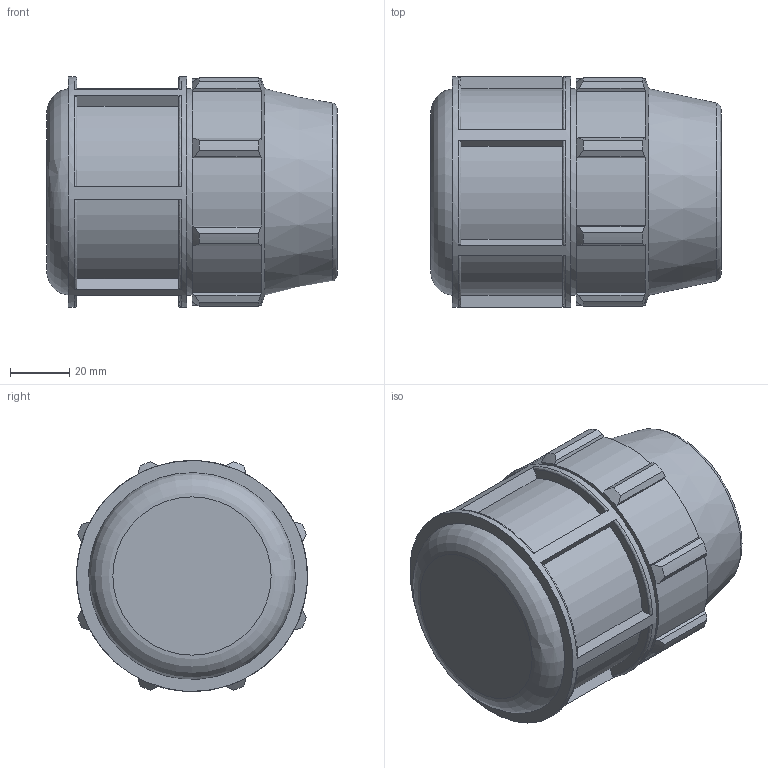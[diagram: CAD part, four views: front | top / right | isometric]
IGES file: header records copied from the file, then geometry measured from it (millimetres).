
Global section: file name: 0712M0130.ipt; native system: Autodesk Inventor 2019; preprocessor: unknown; author: Кирилл,,11,0; organization: 20170224.180708; date: 20210826.124724; units: inch
Bounding box: 98.04 x 77.86 x 77.94 mm (x, y, z)
Volume: 263070.6 mm3; surface area: 46772.6 mm2
Topology: 1 solids, 1 shells, 115 faces, 313 edges, 210 vertices
Faces by surface type: plane 63, cylinder 24, revolution 18, cone 10
Full cylindrical faces by diameter (mm): 69.736 x1, 77.94 x1
